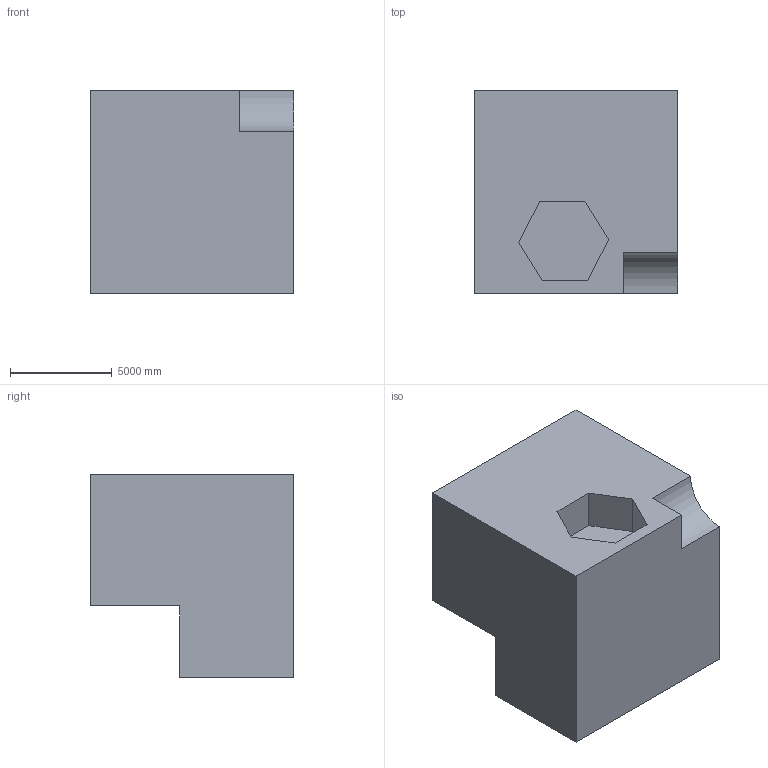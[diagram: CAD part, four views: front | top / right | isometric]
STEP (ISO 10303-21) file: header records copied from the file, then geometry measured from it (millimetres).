
FILE_DESCRIPTION (( 'STEP AP203' ), '1' );
FILE_NAME ('28.STEP', '2022-09-01T11:39:44', ( 'user' ), ( '' ), 'SwSTEP 2.0', 'SolidWorks 2021', '' );
FILE_SCHEMA (( 'CONFIG_CONTROL_DESIGN' ));
Length unit declared in the file: centimetre
Products named in the file (1): 28
Bounding box: 10000 x 10000 x 10000 mm (x, y, z)
Volume: 811021650288.7 mm3; surface area: 593010937.3 mm2
Topology: 1 solids, 1 shells, 17 faces, 42 edges, 28 vertices
Faces by surface type: plane 16, cylinder 1
Entity records: 575 total; most frequent: CARTESIAN_POINT 88, ORIENTED_EDGE 84, DIRECTION 80, EDGE_CURVE 42, VECTOR 40, LINE 40, VERTEX_POINT 28, AXIS2_PLACEMENT_3D 20
